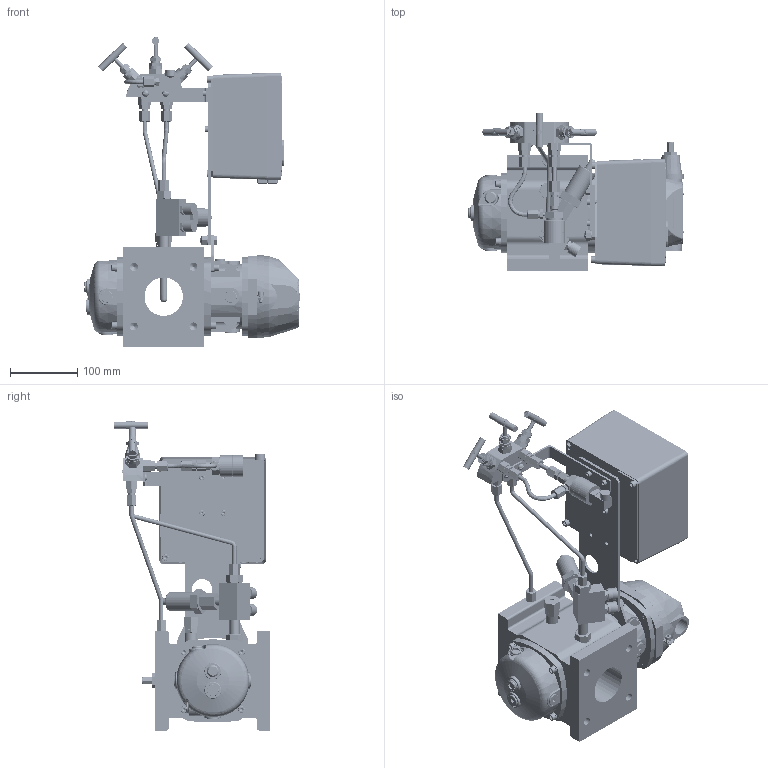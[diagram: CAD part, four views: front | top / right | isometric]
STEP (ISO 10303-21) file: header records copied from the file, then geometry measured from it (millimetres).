
FILE_DESCRIPTION(('STEP AP203'), '1');
FILE_NAME('楥-2230-G16', '', ('UNSPECIFIED'), ('UNSPECIFIED'), 'C3D Converter', 'C3D Toolkit', '');
FILE_SCHEMA(('CONFIG_CONTROL_DESIGN'));
Length unit declared in the file: millimetre
Bounding box: 321 x 232.75 x 458.75 mm (x, y, z)
Volume: 4459036.4 mm3; surface area: 695264.1 mm2
Topology: 5 solids, 8 shells, 10205 faces, 28630 edges, 19223 vertices
Faces by surface type: plane 5200, extrusion 2990, cylinder 1554, cone 248, torus 127, bspline 74, sphere 12
Full cylindrical faces by diameter (mm): 1 x23, 1.5 x1, 2 x11, 2.2 x1, 2.5 x4, 3 x17, 3.5 x4, 4 x29, 4.134 x4, 4.4 x1, 5 x5, 5.4 x1, 5.5 x5, 6 x13, 6.381 x1, 6.5 x9, 7 x12, 7.4 x4, 7.5 x7, 8 x5, 8.466 x1, 8.5 x9, 9.4 x9, 9.526 x2, 9.65 x1, 10 x29, 11 x16, 11.002 x1, 11.835 x8, 12 x17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
Entity records: 469425 total; most frequent: CARTESIAN_POINT 140118, ORIENTED_EDGE 54798, DIRECTION 40907, EDGE_CURVE 27999, VERTEX_POINT 19159, VECTOR 19157, LINE 16167, EDGE_LOOP 11727
